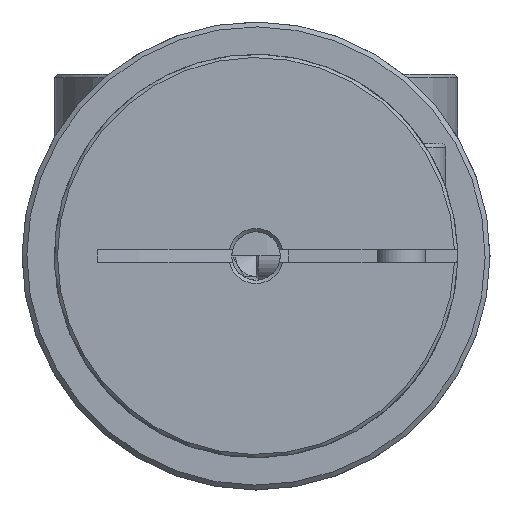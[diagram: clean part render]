
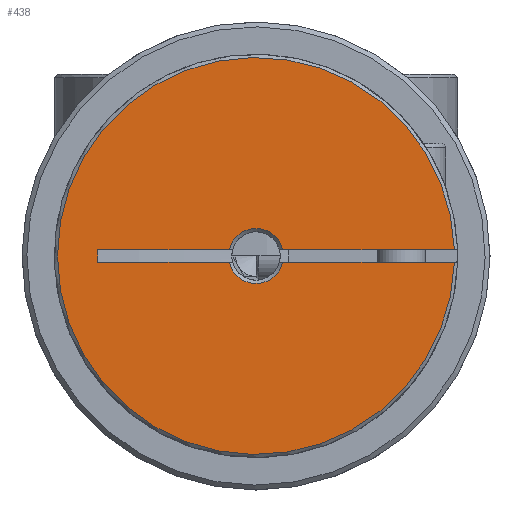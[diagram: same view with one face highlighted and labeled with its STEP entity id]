
A CAD part, left-side view. The second image highlights one B-rep face of the part: STEP entity #438.
In plain terms, the highlighted planar face has unit normal (-1, 0, 0) as drawn and (0, 0, 1) by its records, which use the part's own axes.
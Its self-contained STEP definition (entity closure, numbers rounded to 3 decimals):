
#438 = ADVANCED_FACE( 'NONE', ( #880 ), #881, .T. );
#880 = FACE_OUTER_BOUND( '', #1478, .T. );
#881 = PLANE( '', #1479 );
#1478 = EDGE_LOOP( '', ( #2321, #2322, #2323, #2324, #2325, #2326, #2327, #2328 ) );
#1479 = AXIS2_PLACEMENT_3D( '', #2329, #2330, #2331 );
#2321 = ORIENTED_EDGE( '', *, *, #3197, .F. );
#2322 = ORIENTED_EDGE( '', *, *, #3198, .T. );
#2323 = ORIENTED_EDGE( '', *, *, #3199, .F. );
#2324 = ORIENTED_EDGE( '', *, *, #3200, .T. );
#2325 = ORIENTED_EDGE( '', *, *, #3201, .T. );
#2326 = ORIENTED_EDGE( '', *, *, #3202, .T. );
#2327 = ORIENTED_EDGE( '', *, *, #3193, .T. );
#2328 = ORIENTED_EDGE( '', *, *, #3203, .F. );
#2329 = CARTESIAN_POINT( '', ( 0., 0., 11.25 ) );
#2330 = DIRECTION( '', ( 0., 0., 1. ) );
#2331 = DIRECTION( '', ( 1., 0., 0. ) );
#3193 = EDGE_CURVE( 'NONE', #3596, #3597, #3598, .T. );
#3197 = EDGE_CURVE( 'NONE', #3604, #3605, #3606, .F. );
#3198 = EDGE_CURVE( 'NONE', #3604, #3607, #3608, .F. );
#3199 = EDGE_CURVE( 'NONE', #3609, #3607, #3610, .T. );
#3200 = EDGE_CURVE( 'NONE', #3609, #3611, #3612, .T. );
#3201 = EDGE_CURVE( 'NONE', #3611, #3613, #3614, .T. );
#3202 = EDGE_CURVE( 'NONE', #3613, #3596, #3615, .F. );
#3203 = EDGE_CURVE( 'NONE', #3605, #3597, #3616, .F. );
#3596 = VERTEX_POINT( 'NONE', #4519 );
#3597 = VERTEX_POINT( 'NONE', #4520 );
#3598 = LINE( '', #4521, #4522 );
#3604 = VERTEX_POINT( 'NONE', #4532 );
#3605 = VERTEX_POINT( 'NONE', #4533 );
#3606 = LINE( '', #4534, #4535 );
#3607 = VERTEX_POINT( 'NONE', #4536 );
#3608 = CIRCLE( '', #4537, 1.7 );
#3609 = VERTEX_POINT( 'NONE', #4538 );
#3610 = LINE( '', #4539, #4540 );
#3611 = VERTEX_POINT( 'NONE', #4541 );
#3612 = CIRCLE( '', #4542, 12.3 );
#3613 = VERTEX_POINT( 'NONE', #4543 );
#3614 = LINE( '', #4544, #4545 );
#3615 = CIRCLE( '', #4546, 1.7 );
#3616 = LINE( '', #4547, #4548 );
#4519 = CARTESIAN_POINT( '', ( -1.652, -0.4, 11.25 ) );
#4520 = CARTESIAN_POINT( '', ( -9.815, -0.4, 11.25 ) );
#4521 = CARTESIAN_POINT( '', ( 0., -0.4, 11.25 ) );
#4522 = VECTOR( '', #5226, 1000. );
#4532 = CARTESIAN_POINT( '', ( -1.652, 0.4, 11.25 ) );
#4533 = CARTESIAN_POINT( '', ( -9.815, 0.4, 11.25 ) );
#4534 = CARTESIAN_POINT( '', ( 7., 0.4, 11.25 ) );
#4535 = VECTOR( '', #5231, 1000. );
#4536 = CARTESIAN_POINT( '', ( 1.652, 0.4, 11.25 ) );
#4537 = AXIS2_PLACEMENT_3D( '', #5232, #5233, #5234 );
#4538 = CARTESIAN_POINT( '', ( 12.293, 0.4, 11.25 ) );
#4539 = CARTESIAN_POINT( '', ( 0., 0.4, 11.25 ) );
#4540 = VECTOR( '', #5235, 1000. );
#4541 = CARTESIAN_POINT( '', ( 12.293, -0.4, 11.25 ) );
#4542 = AXIS2_PLACEMENT_3D( '', #5236, #5237, #5238 );
#4543 = CARTESIAN_POINT( '', ( 1.652, -0.4, 11.25 ) );
#4544 = CARTESIAN_POINT( '', ( 0., -0.4, 11.25 ) );
#4545 = VECTOR( '', #5239, 1000. );
#4546 = AXIS2_PLACEMENT_3D( '', #5240, #5241, #5242 );
#4547 = CARTESIAN_POINT( '', ( -9.815, -0.4, 11.25 ) );
#4548 = VECTOR( '', #5243, 1000. );
#5226 = DIRECTION( '', ( -1., 0., 0. ) );
#5231 = DIRECTION( '', ( 1., 0., 0. ) );
#5232 = CARTESIAN_POINT( '', ( 0., 0., 11.25 ) );
#5233 = DIRECTION( '', ( 0., 0., 1. ) );
#5234 = DIRECTION( '', ( 1., 0., 0. ) );
#5235 = DIRECTION( '', ( -1., 0., 0. ) );
#5236 = CARTESIAN_POINT( '', ( 0., 0., 11.25 ) );
#5237 = DIRECTION( '', ( 0., 0., 1. ) );
#5238 = DIRECTION( '', ( 1., 0., 0. ) );
#5239 = DIRECTION( '', ( -1., 0., 0. ) );
#5240 = CARTESIAN_POINT( '', ( 0., 0., 11.25 ) );
#5241 = DIRECTION( '', ( 0., 0., 1. ) );
#5242 = DIRECTION( '', ( 1., 0., 0. ) );
#5243 = DIRECTION( '', ( 0., 1., 0. ) );
